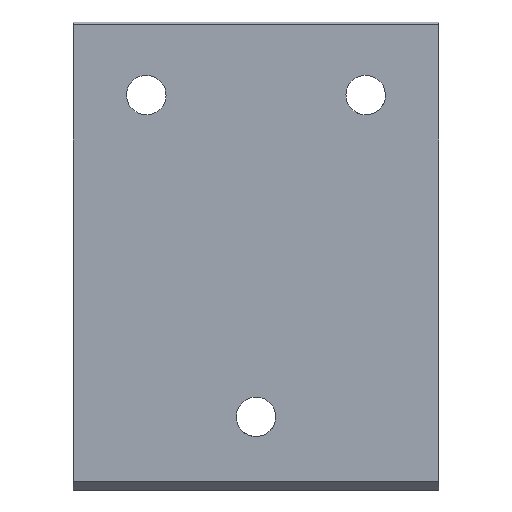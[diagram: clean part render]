
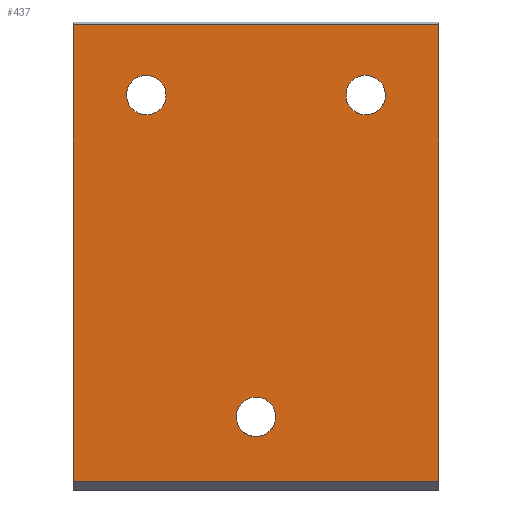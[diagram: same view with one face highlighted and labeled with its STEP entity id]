
A CAD part, left-side view. The second image highlights one B-rep face of the part: STEP entity #437.
In plain terms, the highlighted planar face has unit normal (-1, 0, 0).
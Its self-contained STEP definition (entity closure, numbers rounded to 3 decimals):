
#8 = CARTESIAN_POINT ( 'NONE',  ( 0., 0.156, 18.194 ) ) ;
#16 = ORIENTED_EDGE ( 'NONE', *, *, #666, .F. ) ;
#17 = CARTESIAN_POINT ( 'NONE',  ( 0., 5.924, 21.764 ) ) ;
#37 = CARTESIAN_POINT ( 'NONE',  ( 0., -37.5, 135. ) ) ;
#43 = CARTESIAN_POINT ( 'NONE',  ( 0., -62.5, 159. ) ) ;
#44 = DIRECTION ( 'NONE',  ( -1., 0., 0. ) ) ;
#45 = DIRECTION ( 'NONE',  ( -1., 0., 0. ) ) ;
#56 = CARTESIAN_POINT ( 'NONE',  ( 0., -5.811, 21.454 ) ) ;
#65 = CARTESIAN_POINT ( 'NONE',  ( 0., -5.924, 28.236 ) ) ;
#68 = CARTESIAN_POINT ( 'NONE',  ( 0., 0., 25. ) ) ;
#76 = CARTESIAN_POINT ( 'NONE',  ( 0., 2.748, 18.772 ) ) ;
#79 = DIRECTION ( 'NONE',  ( 0., 1., 0. ) ) ;
#81 = EDGE_CURVE ( 'NONE', #316, #96, #314, .T. ) ;
#82 = CARTESIAN_POINT ( 'NONE',  ( 0., 3.546, 19.189 ) ) ;
#92 = DIRECTION ( 'NONE',  ( -1., 0., 0. ) ) ;
#94 = CIRCLE ( 'NONE', #100, 6.75 ) ;
#96 = VERTEX_POINT ( 'NONE', #125 ) ;
#100 = AXIS2_PLACEMENT_3D ( 'NONE', #782, #867, #662 ) ;
#105 = DIRECTION ( 'NONE',  ( 0., -1., 0. ) ) ;
#106 = ORIENTED_EDGE ( 'NONE', *, *, #710, .F. ) ;
#111 = FACE_BOUND ( 'NONE', #338, .T. ) ;
#112 = CARTESIAN_POINT ( 'NONE',  ( 0., -62.5, 3. ) ) ;
#123 = VERTEX_POINT ( 'NONE', #112 ) ;
#125 = CARTESIAN_POINT ( 'NONE',  ( 0., -43.424, 138.236 ) ) ;
#127 = VECTOR ( 'NONE', #136, 1000. ) ;
#136 = DIRECTION ( 'NONE',  ( 0., 1., 0. ) ) ;
#146 = CARTESIAN_POINT ( 'NONE',  ( 0., 4.922, 20.298 ) ) ;
#152 = CARTESIAN_POINT ( 'NONE',  ( 0., -62.5, 81. ) ) ;
#189 = AXIS2_PLACEMENT_3D ( 'NONE', #37, #44, #539 ) ;
#208 = AXIS2_PLACEMENT_3D ( 'NONE', #588, #45, #105 ) ;
#210 = CARTESIAN_POINT ( 'NONE',  ( 0., 62.5, 3. ) ) ;
#220 = LINE ( 'NONE', #546, #769 ) ;
#223 = VERTEX_POINT ( 'NONE', #719 ) ;
#245 = DIRECTION ( 'NONE',  ( -1., 0., 0. ) ) ;
#257 = EDGE_CURVE ( 'NONE', #396, #399, #600, .T. ) ;
#265 = CARTESIAN_POINT ( 'NONE',  ( 0., -6.347, 27.461 ) ) ;
#282 = EDGE_LOOP ( 'NONE', ( #379, #16 ) ) ;
#284 = AXIS2_PLACEMENT_3D ( 'NONE', #698, #498, #473 ) ;
#291 = ORIENTED_EDGE ( 'NONE', *, *, #571, .F. ) ;
#292 = ORIENTED_EDGE ( 'NONE', *, *, #713, .F. ) ;
#301 = CIRCLE ( 'NONE', #208, 6.75 ) ;
#304 = ORIENTED_EDGE ( 'NONE', *, *, #257, .F. ) ;
#314 = CIRCLE ( 'NONE', #189, 6.75 ) ;
#316 = VERTEX_POINT ( 'NONE', #359 ) ;
#324 = EDGE_CURVE ( 'NONE', #123, #598, #718, .T. ) ;
#338 = EDGE_LOOP ( 'NONE', ( #397, #291 ) ) ;
#342 = DIRECTION ( 'NONE',  ( 0., 0., 1. ) ) ;
#347 = CARTESIAN_POINT ( 'NONE',  ( 0., 37.5, 135. ) ) ;
#348 = CARTESIAN_POINT ( 'NONE',  ( 0., 62.5, 159. ) ) ;
#359 = CARTESIAN_POINT ( 'NONE',  ( 0., -31.576, 131.764 ) ) ;
#373 = VERTEX_POINT ( 'NONE', #348 ) ;
#379 = ORIENTED_EDGE ( 'NONE', *, *, #767, .F. ) ;
#392 = DIRECTION ( 'NONE',  ( 0., -1., 0. ) ) ;
#396 = VERTEX_POINT ( 'NONE', #65 ) ;
#397 = ORIENTED_EDGE ( 'NONE', *, *, #81, .F. ) ;
#399 = VERTEX_POINT ( 'NONE', #17 ) ;
#417 = CARTESIAN_POINT ( 'NONE',  ( 0., 43.424, 131.764 ) ) ;
#427 = DIRECTION ( 'NONE',  ( 0., 0., 1. ) ) ;
#431 = LINE ( 'NONE', #692, #796 ) ;
#437 = ADVANCED_FACE ( 'NONE', ( #826, #472, #450, #111 ), #493, .T. ) ;
#450 = FACE_BOUND ( 'NONE', #561, .T. ) ;
#464 = LINE ( 'NONE', #492, #127 ) ;
#466 = CARTESIAN_POINT ( 'NONE',  ( 0., -5.924, 28.236 ) ) ;
#472 = FACE_BOUND ( 'NONE', #282, .T. ) ;
#473 = DIRECTION ( 'NONE',  ( 0., 0., 1. ) ) ;
#492 = CARTESIAN_POINT ( 'NONE',  ( 0., 0., 3. ) ) ;
#493 = PLANE ( 'NONE',  #284 ) ;
#494 = CARTESIAN_POINT ( 'NONE',  ( 0., -4.702, 20.078 ) ) ;
#498 = DIRECTION ( 'NONE',  ( -1., 0., 0. ) ) ;
#502 = EDGE_LOOP ( 'NONE', ( #292, #715, #786, #584 ) ) ;
#510 = CIRCLE ( 'NONE', #770, 6.75 ) ;
#512 = EDGE_CURVE ( 'NONE', #709, #373, #220, .T. ) ;
#539 = DIRECTION ( 'NONE',  ( 0., -1., 0. ) ) ;
#546 = CARTESIAN_POINT ( 'NONE',  ( 0., 62.5, 81. ) ) ;
#550 = CARTESIAN_POINT ( 'NONE',  ( 0., 5.5, 20.988 ) ) ;
#559 = DIRECTION ( 'NONE',  ( 0., -1., 0. ) ) ;
#561 = EDGE_LOOP ( 'NONE', ( #106, #304 ) ) ;
#571 = EDGE_CURVE ( 'NONE', #96, #316, #94, .T. ) ;
#584 = ORIENTED_EDGE ( 'NONE', *, *, #512, .F. ) ;
#588 = CARTESIAN_POINT ( 'NONE',  ( 0., 37.5, 135. ) ) ;
#590 = CARTESIAN_POINT ( 'NONE',  ( 0., -6.726, 23.947 ) ) ;
#598 = VERTEX_POINT ( 'NONE', #43 ) ;
#600 = CIRCLE ( 'NONE', #605, 6.75 ) ;
#605 = AXIS2_PLACEMENT_3D ( 'NONE', #68, #92, #559 ) ;
#610 = VERTEX_POINT ( 'NONE', #417 ) ;
#650 = EDGE_CURVE ( 'NONE', #598, #373, #431, .T. ) ;
#651 = B_SPLINE_CURVE_WITH_KNOTS ( 'NONE', 3,
 ( #752, #550, #146, #82, #76, #851, #8, #823, #869, #731, #494, #56, #819, #590, #788, #749, #265, #466 ),
 .UNSPECIFIED., .F., .F.,
 ( 4, 2, 2, 2, 2, 2, 2, 2, 4 ),
 ( 0., 0.125, 0.25, 0.375, 0.5, 0.625, 0.75, 0.875, 1. ),
 .UNSPECIFIED. ) ;
#662 = DIRECTION ( 'NONE',  ( 0., -1., 0. ) ) ;
#666 = EDGE_CURVE ( 'NONE', #223, #610, #510, .T. ) ;
#692 = CARTESIAN_POINT ( 'NONE',  ( 0., 0., 159. ) ) ;
#698 = CARTESIAN_POINT ( 'NONE',  ( 0., 0., 3. ) ) ;
#709 = VERTEX_POINT ( 'NONE', #210 ) ;
#710 = EDGE_CURVE ( 'NONE', #399, #396, #651, .T. ) ;
#713 = EDGE_CURVE ( 'NONE', #123, #709, #464, .T. ) ;
#715 = ORIENTED_EDGE ( 'NONE', *, *, #324, .T. ) ;
#718 = LINE ( 'NONE', #152, #799 ) ;
#719 = CARTESIAN_POINT ( 'NONE',  ( 0., 31.576, 138.236 ) ) ;
#731 = CARTESIAN_POINT ( 'NONE',  ( 0., -4.012, 19.5 ) ) ;
#749 = CARTESIAN_POINT ( 'NONE',  ( 0., -6.617, 26.601 ) ) ;
#752 = CARTESIAN_POINT ( 'NONE',  ( 0., 5.924, 21.764 ) ) ;
#767 = EDGE_CURVE ( 'NONE', #610, #223, #301, .T. ) ;
#769 = VECTOR ( 'NONE', #342, 1000. ) ;
#770 = AXIS2_PLACEMENT_3D ( 'NONE', #347, #245, #392 ) ;
#782 = CARTESIAN_POINT ( 'NONE',  ( 0., -37.5, 135. ) ) ;
#786 = ORIENTED_EDGE ( 'NONE', *, *, #650, .T. ) ;
#788 = CARTESIAN_POINT ( 'NONE',  ( 0., -6.806, 24.844 ) ) ;
#796 = VECTOR ( 'NONE', #79, 1000. ) ;
#799 = VECTOR ( 'NONE', #427, 1000. ) ;
#819 = CARTESIAN_POINT ( 'NONE',  ( 0., -6.228, 22.252 ) ) ;
#823 = CARTESIAN_POINT ( 'NONE',  ( 0., -1.601, 18.383 ) ) ;
#826 = FACE_OUTER_BOUND ( 'NONE', #502, .T. ) ;
#851 = CARTESIAN_POINT ( 'NONE',  ( 0., 1.053, 18.274 ) ) ;
#867 = DIRECTION ( 'NONE',  ( -1., 0., 0. ) ) ;
#869 = CARTESIAN_POINT ( 'NONE',  ( 0., -2.461, 18.653 ) ) ;
